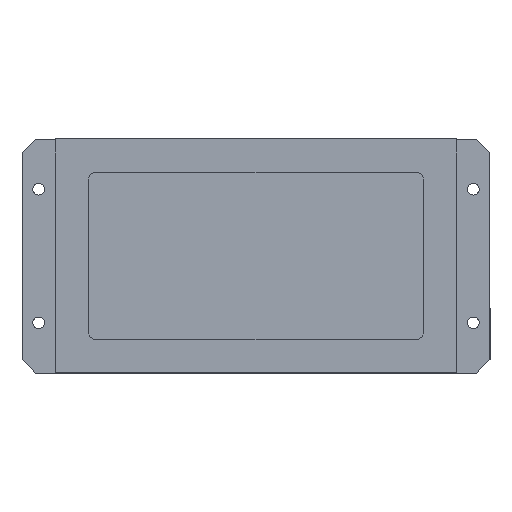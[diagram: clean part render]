
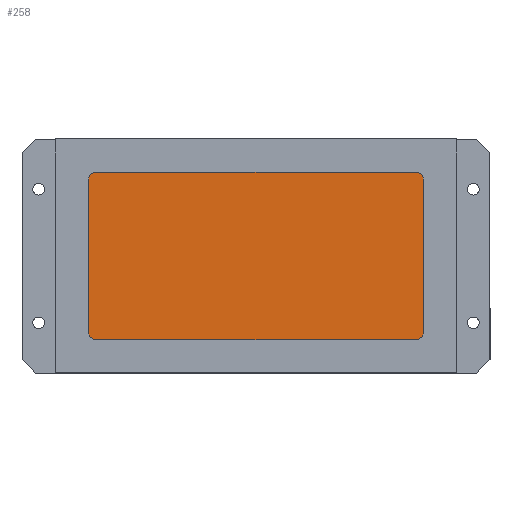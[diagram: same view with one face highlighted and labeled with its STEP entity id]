
A CAD part, top view. The second image highlights one B-rep face of the part: STEP entity #258.
In plain terms, the highlighted planar face has unit normal (0, 0, 1).
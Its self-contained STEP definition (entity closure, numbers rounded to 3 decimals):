
#10 = DIRECTION ( 'NONE',  ( 1., 0., 0. ) ) ;
#17 = CARTESIAN_POINT ( 'NONE',  ( -48., 23., 19. ) ) ;
#43 = VERTEX_POINT ( 'NONE', #1005 ) ;
#49 = EDGE_CURVE ( 'NONE', #219, #863, #1117, .T. ) ;
#54 = AXIS2_PLACEMENT_3D ( 'NONE', #587, #474, #346 ) ;
#58 = DIRECTION ( 'NONE',  ( 0., 0., 1. ) ) ;
#60 = VECTOR ( 'NONE', #244, 1000. ) ;
#68 = VERTEX_POINT ( 'NONE', #852 ) ;
#72 = LINE ( 'NONE', #1076, #476 ) ;
#97 = ORIENTED_EDGE ( 'NONE', *, *, #952, .T. ) ;
#102 = DIRECTION ( 'NONE',  ( 0., -1., 0. ) ) ;
#119 = CARTESIAN_POINT ( 'NONE',  ( -50., 25., 19. ) ) ;
#141 = CARTESIAN_POINT ( 'NONE',  ( 0., 0., 19. ) ) ;
#143 = EDGE_LOOP ( 'NONE', ( #429, #1024, #97, #685, #470, #775, #345, #902 ) ) ;
#163 = EDGE_CURVE ( 'NONE', #68, #594, #535, .T. ) ;
#178 = EDGE_CURVE ( 'NONE', #863, #68, #644, .T. ) ;
#195 = CARTESIAN_POINT ( 'NONE',  ( 48., -23., 19. ) ) ;
#205 = CARTESIAN_POINT ( 'NONE',  ( -50., 25., 19. ) ) ;
#219 = VERTEX_POINT ( 'NONE', #481 ) ;
#244 = DIRECTION ( 'NONE',  ( -1., 0., 0. ) ) ;
#256 = CARTESIAN_POINT ( 'NONE',  ( 50., -23., 19. ) ) ;
#258 = ADVANCED_FACE ( 'NONE', ( #514 ), #266, .T. ) ;
#266 = PLANE ( 'NONE',  #432 ) ;
#286 = VERTEX_POINT ( 'NONE', #820 ) ;
#291 = CIRCLE ( 'NONE', #54, 2. ) ;
#342 = VERTEX_POINT ( 'NONE', #256 ) ;
#345 = ORIENTED_EDGE ( 'NONE', *, *, #49, .T. ) ;
#346 = DIRECTION ( 'NONE',  ( 1., 0., 0. ) ) ;
#390 = DIRECTION ( 'NONE',  ( 0., 0., 1. ) ) ;
#429 = ORIENTED_EDGE ( 'NONE', *, *, #163, .T. ) ;
#432 = AXIS2_PLACEMENT_3D ( 'NONE', #141, #390, #947 ) ;
#470 = ORIENTED_EDGE ( 'NONE', *, *, #808, .T. ) ;
#474 = DIRECTION ( 'NONE',  ( 0., 0., 1. ) ) ;
#476 = VECTOR ( 'NONE', #982, 1000. ) ;
#481 = CARTESIAN_POINT ( 'NONE',  ( 48., 25., 19. ) ) ;
#513 = VECTOR ( 'NONE', #734, 1000. ) ;
#514 = FACE_OUTER_BOUND ( 'NONE', #143, .T. ) ;
#524 = VECTOR ( 'NONE', #102, 1000. ) ;
#535 = LINE ( 'NONE', #205, #524 ) ;
#568 = DIRECTION ( 'NONE',  ( 1., 0., 0. ) ) ;
#587 = CARTESIAN_POINT ( 'NONE',  ( -48., -23., 19. ) ) ;
#592 = CARTESIAN_POINT ( 'NONE',  ( -48., 25., 19. ) ) ;
#594 = VERTEX_POINT ( 'NONE', #983 ) ;
#618 = CARTESIAN_POINT ( 'NONE',  ( 50., 23., 19. ) ) ;
#644 = CIRCLE ( 'NONE', #774, 2. ) ;
#648 = CIRCLE ( 'NONE', #837, 2. ) ;
#658 = AXIS2_PLACEMENT_3D ( 'NONE', #195, #58, #1065 ) ;
#678 = DIRECTION ( 'NONE',  ( 0., 0., 1. ) ) ;
#685 = ORIENTED_EDGE ( 'NONE', *, *, #793, .T. ) ;
#734 = DIRECTION ( 'NONE',  ( 0., 1., 0. ) ) ;
#774 = AXIS2_PLACEMENT_3D ( 'NONE', #17, #998, #10 ) ;
#775 = ORIENTED_EDGE ( 'NONE', *, *, #872, .T. ) ;
#783 = CARTESIAN_POINT ( 'NONE',  ( 48., 23., 19. ) ) ;
#793 = EDGE_CURVE ( 'NONE', #43, #342, #814, .T. ) ;
#808 = EDGE_CURVE ( 'NONE', #342, #826, #944, .T. ) ;
#814 = CIRCLE ( 'NONE', #658, 2. ) ;
#820 = CARTESIAN_POINT ( 'NONE',  ( -48., -25., 19. ) ) ;
#826 = VERTEX_POINT ( 'NONE', #618 ) ;
#837 = AXIS2_PLACEMENT_3D ( 'NONE', #783, #678, #568 ) ;
#839 = CARTESIAN_POINT ( 'NONE',  ( 50., 25., 19. ) ) ;
#852 = CARTESIAN_POINT ( 'NONE',  ( -50., 23., 19. ) ) ;
#863 = VERTEX_POINT ( 'NONE', #592 ) ;
#872 = EDGE_CURVE ( 'NONE', #826, #219, #648, .T. ) ;
#902 = ORIENTED_EDGE ( 'NONE', *, *, #178, .T. ) ;
#944 = LINE ( 'NONE', #839, #513 ) ;
#947 = DIRECTION ( 'NONE',  ( 1., 0., 0. ) ) ;
#952 = EDGE_CURVE ( 'NONE', #286, #43, #72, .T. ) ;
#982 = DIRECTION ( 'NONE',  ( 1., 0., 0. ) ) ;
#983 = CARTESIAN_POINT ( 'NONE',  ( -50., -23., 19. ) ) ;
#998 = DIRECTION ( 'NONE',  ( 0., 0., 1. ) ) ;
#1005 = CARTESIAN_POINT ( 'NONE',  ( 48., -25., 19. ) ) ;
#1024 = ORIENTED_EDGE ( 'NONE', *, *, #1106, .T. ) ;
#1065 = DIRECTION ( 'NONE',  ( 1., 0., 0. ) ) ;
#1076 = CARTESIAN_POINT ( 'NONE',  ( -50., -25., 19. ) ) ;
#1106 = EDGE_CURVE ( 'NONE', #594, #286, #291, .T. ) ;
#1117 = LINE ( 'NONE', #119, #60 ) ;
